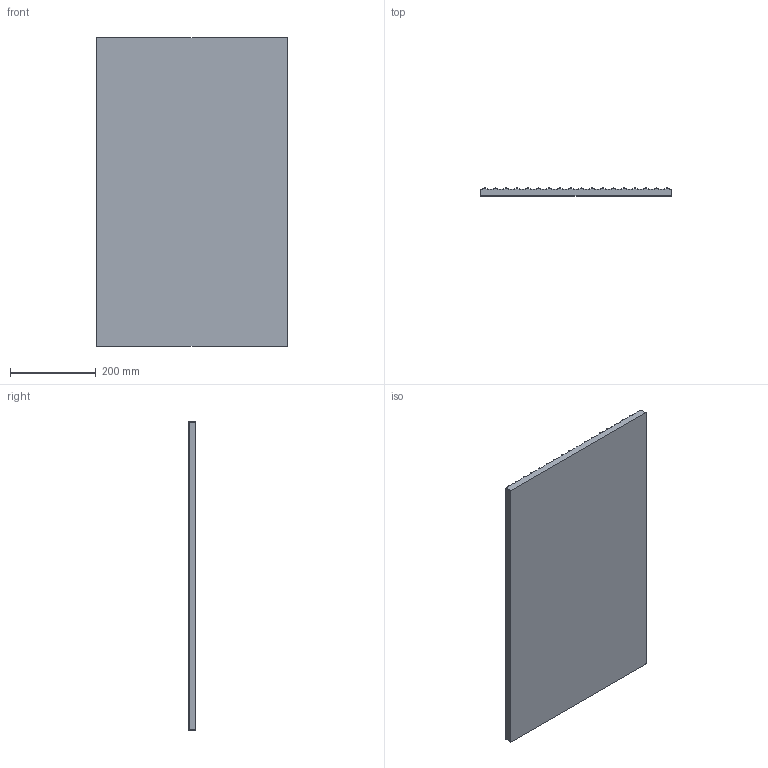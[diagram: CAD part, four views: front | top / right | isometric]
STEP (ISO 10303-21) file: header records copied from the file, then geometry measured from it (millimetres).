
FILE_DESCRIPTION(/* description */ (''),/* implementation_level */ '2;1');
FILE_NAME(/* name */ 'B102.stp',/* time_stamp */ '2024-06-11T15:40:47+02:00',/* author */ ('bzsolt'),/* organization */ (''),/* preprocessor_version */ 'ST-DEVELOPER v20',/* originating_system */ 'Autodesk Inventor 2025',/* authorisation */ '');
FILE_SCHEMA (('AUTOMOTIVE_DESIGN { 1 0 10303 214 3 1 1 }'));
Length unit declared in the file: millimetre
Products named in the file (1): B102
Bounding box: 447 x 18 x 718 mm (x, y, z)
Volume: 5031545.7 mm3; surface area: 708705.4 mm2
Topology: 1 solids, 1 shells, 546 faces, 1238 edges, 694 vertices
Faces by surface type: cylinder 253, torus 180, plane 75, sphere 34, bspline 4
Entity records: 15377 total; most frequent: DIRECTION 3074, CARTESIAN_POINT 2607, ORIENTED_EDGE 2476, AXIS2_PLACEMENT_3D 1301, EDGE_CURVE 1238, CIRCLE 758, VERTEX_POINT 694, FACE_OUTER_BOUND 546
